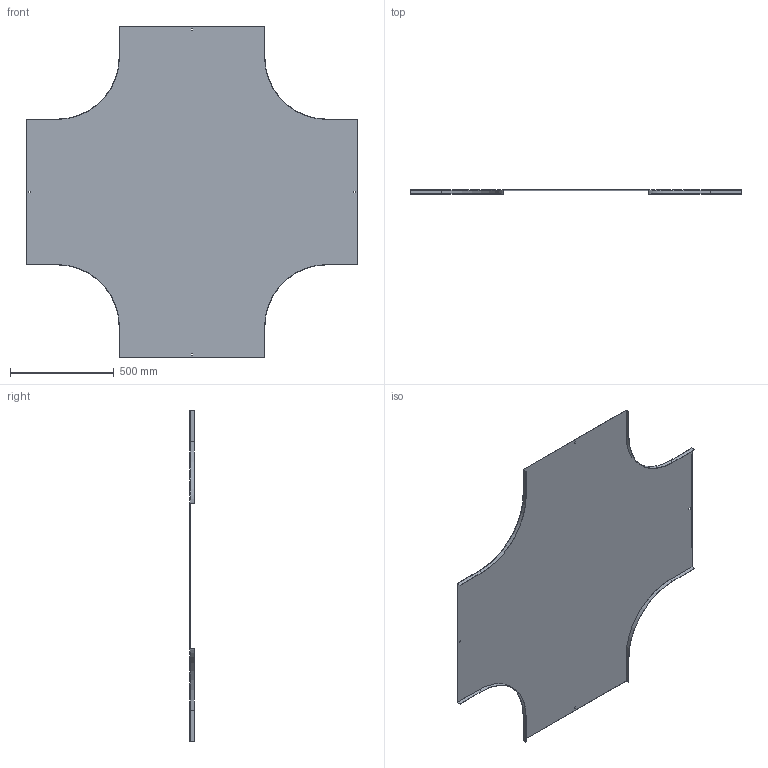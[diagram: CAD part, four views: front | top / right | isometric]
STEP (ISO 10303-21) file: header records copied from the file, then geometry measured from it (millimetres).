
FILE_DESCRIPTION (( 'STEP AP214' ), '1' );
FILE_NAME ('A2_17N3R700.step', '2025-02-21T12:08:24', ( '' ), ( '' ), 'SwSTEP 2.0', 'SolidWorks 2023', '' );
FILE_SCHEMA (( 'AUTOMOTIVE_DESIGN' ));
Length unit declared in the file: millimetre
Products named in the file (1): A2_17N3R700
Bounding box: 1600 x 20 x 1600 mm (x, y, z)
Volume: 2832941.3 mm3; surface area: 3786494.3 mm2
Topology: 1 solids, 1 shells, 50 faces, 144 edges, 96 vertices
Faces by surface type: plane 42, cylinder 8
Entity records: 1663 total; most frequent: CARTESIAN_POINT 291, ORIENTED_EDGE 288, DIRECTION 262, EDGE_CURVE 144, VECTOR 128, LINE 128, VERTEX_POINT 96, AXIS2_PLACEMENT_3D 67
